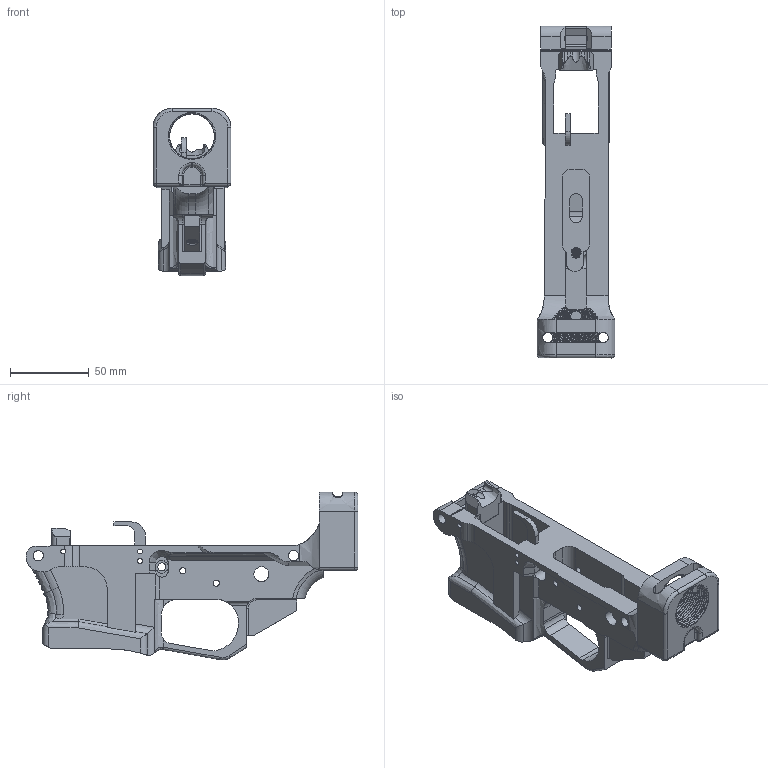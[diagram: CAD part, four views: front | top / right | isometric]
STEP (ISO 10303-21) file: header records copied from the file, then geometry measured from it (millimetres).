
FILE_DESCRIPTION(/* description */ (''),/* implementation_level */ '2;1');
FILE_NAME(/* name */ 'PCC 1.0/AR-45 - M3 Grease Gun Mag - Final.step',/* time_stamp */ '2022-03-29T21:36:49-04:00',/* author */ (''),/* organization */ (''),/* preprocessor_version */ 'ST-DEVELOPER v18.1',/* originating_system */ 'Autodesk Translation Framework v10.13.0.1454',/* authorisation */ '');
FILE_SCHEMA (('AUTOMOTIVE_DESIGN { 1 0 10303 214 3 1 1 }'));
Products named in the file (4): AR-45 - M3 Grease Gun Mag - Final; Frame (4) (1) (1); Feed Lips (2) (2) (1); Ejector-steel (7)
Assembly tree (3 placements, depth 2):
  AR-45 - M3 Grease Gun Mag - Final
    Frame (4) (1) (1)
    Feed Lips (2) (2) (1)
    Ejector-steel (7)
Bounding box: 49.27 x 210.49 x 106.26 mm (x, y, z)
Volume: 214719 mm3; surface area: 71090.9 mm2
Topology: 3 solids, 4 shells, 670 faces, 1932 edges, 1253 vertices
Faces by surface type: cylinder 246, plane 215, bspline 191, cone 8, torus 8, sphere 2
Full cylindrical faces by diameter (mm): 3 x7, 3.175 x1, 3.962 x4, 5.172 x21, 5.182 x1, 6.35 x20, 6.5 x6, 6.75 x1, 7.938 x1, 9.525 x2, 28.47 x9, 30.043 x9
Entity records: 44271 total; most frequent: CARTESIAN_POINT 28394, ORIENTED_EDGE 3854, DIRECTION 2447, EDGE_CURVE 1927, VERTEX_POINT 1253, AXIS2_PLACEMENT_3D 855, B_SPLINE_CURVE_WITH_KNOTS 820, LINE 737
